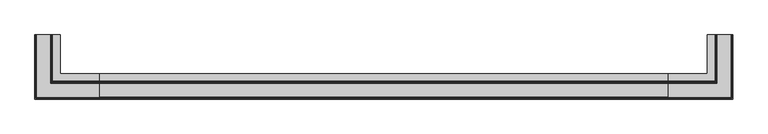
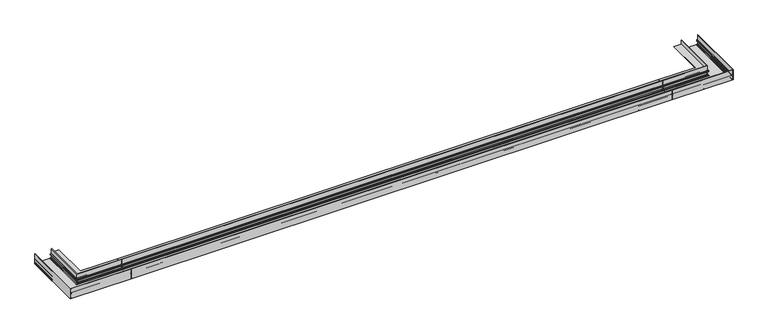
"""IFC4 building model written with IfcOpenShell, lengths in millimetres: proxy geometry, Koryto RENODRAIN : RENODRAIN."""

from ifc_helpers import new_model, si_unit, point, frame, frame_2d, origin, place, context, project, spatial, polyline, circle_curve, ellipse_curve, trimmed, segment, composite_curve, outline, extrude, source, transform, mapped, element, save
from ifc_brep_helpers import plane_surface, cylinder_surface, revolved_surface, advanced_brep


def generic_models_2630b972(model_context):
    return source(origin(), model_context, "Body", "SolidModel", [
        advanced_brep(
        [(4766.0, -128.334936, -14.25), (4766.0, -126.3499995, -15.3960036), (4766.0, -128.1999995, -18.0), (4766.0, -132.9999996, -18.0), (4766.0, -132.9999996, -38.2757359), (4766.0, -129.3333924, -42.0666072), (4766.0, -129.834952, -44.5900806), (4766.0, -128.085185, -46.3529524), (4766.0, -125.8563845, -45.7557471), (4766.0, -121.8949018, -49.5), (4766.0, -14.31734, -49.5), (4766.0, -10.4333924, -45.8333928), (4766.0, -7.909919, -46.3349524), (4766.0, -6.1470472, -44.5851854), (4766.0, -6.7442525, -42.356385), (4766.0, -3.0878675, -38.487868), (4766.0, -3.0878675, -18.0), (4766.0, -7.7999996, -18.0), (4766.0, -9.7999996, -15.6558113), (4766.0, -7.6743923, -14.2337004), (4766.0, -7.6650631, -11.75), (4766.0, -9.6499996, -10.6039964), (4766.0, -7.7999996, -8.0), (4766.0, -2.9999996, -8.0), (4766.0, -2.9999996, 32.0), (4766.0, 5e-07, 32.0), (4766.0, 5e-07, 0.0), (4766.0, 60.0000005, 0.0), (4766.0, 60.0000005, -3.0), (4766.0, 5e-07, -3.0), (4766.0, 5e-07, -52.5), (4766.0, -135.9999996, -52.5), (4766.0, -135.9999996, 32.0000001), (4766.0, -132.9999996, 32.0000001), (4766.0, -132.9999996, -8.0), (4766.0, -128.1999995, -8.0), (4766.0, -126.1999995, -10.3441888), (4766.0, -128.3256069, -11.7662997), (5254.334936, 360.0, -14.25), (5254.3256069, 360.0, -11.7662997), (5252.1999995, 360.0, -10.3441888), (5254.1999995, 360.0, -8.0), (5258.9999996, 360.0, -8.0), (5258.9999996, 360.0, 32.0000001), (5261.9999996, 360.0, 32.0000001), (5261.9999996, 360.0, -52.5), (5125.9999995, 360.0, -52.5), (5125.9999995, 360.0, -3.0), (5065.9999995, 360.0, -3.0), (5065.9999995, 360.0, 0.0), (5125.9999995, 360.0, 0.0), (5125.9999995, 360.0, 32.0), (5128.9999996, 360.0, 32.0), (5128.9999996, 360.0, -8.0), (5133.7999996, 360.0, -8.0), (5135.6499996, 360.0, -10.6039964), (5133.6650631, 360.0, -11.75), (5133.6743923, 360.0, -14.2337004), (5135.7999996, 360.0, -15.6558113), (5133.7999996, 360.0, -18.0), (5129.0878675, 360.0, -18.0), (5129.0878675, 360.0, -38.487868), (5132.7442525, 360.0, -42.356385), (5132.1470472, 360.0, -44.5851854), (5133.909919, 360.0, -46.3349524), (5136.4333924, 360.0, -45.8333928), (5140.31734, 360.0, -49.5), (5247.8949018, 360.0, -49.5), (5251.8563845, 360.0, -45.7557471), (5254.085185, 360.0, -46.3529524), (5255.834952, 360.0, -44.5900806), (5255.3333924, 360.0, -42.0666072), (5258.9999996, 360.0, -38.2757359), (5258.9999996, 360.0, -18.0), (5254.1999995, 360.0, -18.0), (5252.3499995, 360.0, -15.3960036), (5254.3256069, -128.3256069, -11.7662997), (5254.334936, -128.334936, -14.25), (5252.1999995, -126.1999995, -10.3441888), (5254.1999995, -128.1999995, -8.0), (5258.9999996, -132.9999996, -8.0), (5258.9999996, -132.9999996, 32.0000001), (5261.9999996, -135.9999996, 32.0000001), (5261.9999996, -135.9999996, -52.5), (5125.9999995, 5e-07, -52.5), (5125.9999995, 5e-07, -3.0), (5065.9999995, 60.0000005, -3.0), (5065.9999995, 60.0000005, 0.0), (5125.9999995, 5e-07, 0.0), (5125.9999995, 5e-07, 32.0), (5128.9999996, -2.9999996, 32.0), (5128.9999996, -2.9999996, -8.0), (5133.7999996, -7.7999996, -8.0), (5135.6499996, -9.6499996, -10.6039964), (5133.6650631, -7.6650631, -11.75), (5133.6743923, -7.6743923, -14.2337004), (5135.7999996, -9.7999996, -15.6558113), (5133.7999996, -7.7999996, -18.0), (5129.0878675, -3.0878675, -18.0), (5129.0878675, -3.0878675, -38.487868), (5132.7442525, -6.7442525, -42.356385), (5132.1470472, -6.1470472, -44.5851854), (5133.909919, -7.909919, -46.3349524), (5136.4333924, -10.4333924, -45.8333928), (5140.31734, -14.31734, -49.5), (5247.8949018, -121.8949018, -49.5), (5251.8563845, -125.8563845, -45.7557471), (5254.085185, -128.085185, -46.3529524), (5255.834952, -129.834952, -44.5900806), (5255.3333924, -129.3333924, -42.0666072), (5258.9999996, -132.9999996, -38.2757359), (5258.9999996, -132.9999996, -18.0), (5254.1999995, -128.1999995, -18.0), (5252.3499995, -126.3499995, -15.3960036)],
        [
            (0, 1),
            (1, 2, circle_curve(frame((4766.0, -128.1676368, -16.0638309), z_axis=(-1.0, 0.0, 0.0), x_axis=(0.0, 1.0, 0.0)), 1.9364396)),
            (2, 3),
            (3, 4),
            (4, 5),
            (5, 6),
            (6, 7, circle_curve(frame((4766.0, -130.4999996, -47.0), z_axis=(1.0, 0.0, 0.0), x_axis=(0.0, 0.15383713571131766, 0.9880962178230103)), 2.5)),
            (7, 8),
            (8, 9),
            (9, 10),
            (10, 11),
            (11, 12),
            (12, 13, circle_curve(frame((4766.0, -5.4999995, -47.0), z_axis=(1.0, 0.0, 0.0), x_axis=(0.0, -0.9880962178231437, 0.15383713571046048)), 2.5)),
            (13, 14),
            (14, 15),
            (15, 16),
            (16, 17),
            (17, 18, circle_curve(frame((4766.0, -7.7887962, -15.9651736), z_axis=(-1.0, 0.0, 0.0), x_axis=(0.0, 1.0, 0.0)), 2.0348573)),
            (18, 19),
            (19, 20, circle_curve(frame((4766.0, -5.4999996, -13.0), z_axis=(1.0, 0.0, 0.0), x_axis=(0.0, -0.8074688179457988, -0.5899102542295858)), 2.5)),
            (20, 21),
            (21, 22, circle_curve(frame((4766.0, -7.8206077, -9.9445202), z_axis=(-1.0, 0.0, 0.0), x_axis=(0.0, 1.0, 0.0)), 1.9446294)),
            (22, 23),
            (23, 24),
            (24, 25),
            (25, 26),
            (26, 27),
            (27, 28),
            (28, 29),
            (29, 30),
            (30, 31),
            (31, 32),
            (32, 33),
            (33, 34),
            (34, 35),
            (35, 36, circle_curve(frame((4766.0, -128.2266044, -10.0479666), z_axis=(-1.0, 0.0, 0.0), x_axis=(0.0, 1.0, 0.0)), 2.0481394)),
            (36, 37),
            (37, 0, circle_curve(frame((4766.0, -130.4999995, -13.0), z_axis=(1.0, 0.0, 0.0), x_axis=(0.0, 0.8074688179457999, 0.5899102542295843)), 2.5)),
            (38, 39, circle_curve(frame((5256.4999995, 360.0, -13.0), z_axis=(0.0, -1.0, 0.0), x_axis=(-0.8074688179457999, 0.0, 0.5899102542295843)), 2.5)),
            (39, 40),
            (40, 41, circle_curve(frame((5254.2266044, 360.0, -10.0479666), z_axis=(0.0, 1.0, 0.0), x_axis=(-1.0, 0.0, 0.0)), 2.0481394)),
            (41, 42),
            (42, 43),
            (43, 44),
            (44, 45),
            (45, 46),
            (46, 47),
            (47, 48),
            (48, 49),
            (49, 50),
            (50, 51),
            (51, 52),
            (52, 53),
            (53, 54),
            (54, 55, circle_curve(frame((5133.8206077, 360.0, -9.9445202), z_axis=(0.0, 1.0, 0.0), x_axis=(-1.0, 0.0, 0.0)), 1.9446294)),
            (55, 56),
            (56, 57, circle_curve(frame((5131.4999996, 360.0, -13.0), z_axis=(0.0, -1.0, 0.0), x_axis=(0.8074688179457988, 0.0, -0.5899102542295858)), 2.5)),
            (57, 58),
            (58, 59, circle_curve(frame((5133.7887962, 360.0, -15.9651736), z_axis=(0.0, 1.0, 0.0), x_axis=(-1.0, 0.0, 0.0)), 2.0348573)),
            (59, 60),
            (60, 61),
            (61, 62),
            (62, 63),
            (63, 64, circle_curve(frame((5131.4999995, 360.0, -47.0), z_axis=(0.0, -1.0, 0.0), x_axis=(0.9880962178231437, 0.0, 0.15383713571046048)), 2.5)),
            (64, 65),
            (65, 66),
            (66, 67),
            (67, 68),
            (68, 69),
            (69, 70, circle_curve(frame((5256.4999996, 360.0, -47.0), z_axis=(0.0, -1.0, 0.0), x_axis=(-0.15383713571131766, 0.0, 0.9880962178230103)), 2.5)),
            (70, 71),
            (71, 72),
            (72, 73),
            (73, 74),
            (74, 75, circle_curve(frame((5254.1676368, 360.0, -16.0638309), z_axis=(0.0, 1.0, 0.0), x_axis=(-1.0, 0.0, 0.0)), 1.9364396)),
            (75, 38),
            (37, 76),
            (76, 77, ellipse_curve(frame((5256.4999995, -130.4999995, -13.0), z_axis=(0.7071067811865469, 0.7071067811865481, 0.0), x_axis=(0.7071067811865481, -0.7071067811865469, 0.0)), 3.5355339, 2.5)),
            (77, 0),
            (36, 78),
            (78, 76),
            (35, 79),
            (79, 78, ellipse_curve(frame((5254.2266044, -128.2266044, -10.0479666), z_axis=(-0.7071067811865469, -0.7071067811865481, 0.0), x_axis=(-0.7071067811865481, 0.7071067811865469, 0.0)), 2.8965065, 2.0481394)),
            (34, 80),
            (80, 42),
            (41, 79),
            (33, 81),
            (81, 80),
            (32, 82),
            (82, 44),
            (43, 81),
            (31, 83),
            (83, 82),
            (30, 84),
            (84, 46),
            (45, 83),
            (29, 85),
            (85, 84),
            (28, 86),
            (86, 48),
            (47, 85),
            (27, 87),
            (87, 86),
            (26, 88),
            (88, 50),
            (49, 87),
            (25, 89),
            (89, 88),
            (24, 90),
            (90, 52),
            (51, 89),
            (23, 91),
            (91, 90),
            (22, 92),
            (92, 54),
            (53, 91),
            (21, 93),
            (93, 92, ellipse_curve(frame((5133.8206077, -7.8206077, -9.9445202), z_axis=(-0.7071067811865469, -0.7071067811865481, 0.0), x_axis=(-0.7071067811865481, 0.7071067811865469, 0.0)), 2.7501213, 1.9446294)),
            (20, 94),
            (94, 93),
            (19, 95),
            (95, 94, ellipse_curve(frame((5131.4999996, -5.4999996, -13.0), z_axis=(0.7071067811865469, 0.7071067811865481, 0.0), x_axis=(0.7071067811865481, -0.7071067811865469, 0.0)), 3.5355339, 2.5)),
            (18, 96),
            (96, 95),
            (17, 97),
            (97, 96, ellipse_curve(frame((5133.7887962, -7.7887962, -15.9651736), z_axis=(-0.7071067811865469, -0.7071067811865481, 0.0), x_axis=(-0.7071067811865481, 0.7071067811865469, 0.0)), 2.8777228, 2.0348573)),
            (16, 98),
            (98, 60),
            (59, 97),
            (15, 99),
            (99, 98),
            (14, 100),
            (100, 99),
            (13, 101),
            (101, 100),
            (12, 102),
            (102, 101, ellipse_curve(frame((5131.4999995, -5.4999995, -47.0), z_axis=(0.7071067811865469, 0.7071067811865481, 0.0), x_axis=(0.7071067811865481, -0.7071067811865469, 0.0)), 3.5355339, 2.5)),
            (11, 103),
            (103, 102),
            (10, 104),
            (104, 103),
            (9, 105),
            (105, 67),
            (66, 104),
            (8, 106),
            (106, 105),
            (7, 107),
            (107, 106),
            (6, 108),
            (108, 107, ellipse_curve(frame((5256.4999996, -130.4999996, -47.0), z_axis=(0.7071067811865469, 0.7071067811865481, 0.0), x_axis=(0.7071067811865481, -0.7071067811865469, 0.0)), 3.5355339, 2.5)),
            (5, 109),
            (109, 108),
            (4, 110),
            (110, 109),
            (3, 111),
            (111, 110),
            (2, 112),
            (112, 74),
            (73, 111),
            (1, 113),
            (113, 112, ellipse_curve(frame((5254.1676368, -128.1676368, -16.0638309), z_axis=(-0.7071067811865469, -0.7071067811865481, 0.0), x_axis=(-0.7071067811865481, 0.7071067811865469, 0.0)), 2.7385391, 1.9364396)),
            (77, 113),
            (76, 39),
            (38, 77),
            (78, 40),
            (93, 55),
            (94, 56),
            (95, 57),
            (96, 58),
            (99, 61),
            (100, 62),
            (101, 63),
            (102, 64),
            (103, 65),
            (106, 68),
            (107, 69),
            (108, 70),
            (109, 71),
            (110, 72),
            (113, 75),
        ],
        [
            plane_surface(frame((4766.0, 0.0, 0.0), z_axis=(-1.0, 0.0, 0.0), x_axis=(0.0, 0.0, 1.0))),
            plane_surface(frame((5126.0, 360.0, 0.0), z_axis=(0.0, 1.0, 0.0), x_axis=(0.0, 0.0, 1.0))),
            revolved_surface(polyline([(5258.999999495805, -128.4813274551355, -11.52522436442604), (4766.0, -128.4813274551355, -11.52522436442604)]), (4766.0, -130.4999995, -13.0), (1.0000000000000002, 0.0, 0.0)),
            plane_surface(frame((4766.0, -128.3256069, -11.7662997), z_axis=(0.0, 0.5560636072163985, -0.8311397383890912), x_axis=(1.0, 0.0, 0.0))),
            cylinder_surface(frame((4766.0, -128.2266044, -10.0479666), z_axis=(-1.0, 0.0, 0.0), x_axis=(0.0, 1.0, 0.0)), 2.0481394),
            plane_surface(frame((4766.0, -128.1999995, -8.0), z_axis=(0.0, 0.0, 1.0), x_axis=(1.0, 0.0, 0.0))),
            plane_surface(frame((4766.0, -132.9999996, -8.0), z_axis=(0.0, 1.0, 0.0), x_axis=(1.0, 0.0, 0.0))),
            plane_surface(frame((4766.0, -132.9999996, 32.0000001), z_axis=(0.0, 0.0, 1.0), x_axis=(1.0, 0.0, 0.0))),
            plane_surface(frame((4766.0, -135.9999996, 32.0000001), z_axis=(0.0, -1.0, 0.0), x_axis=(1.0, 0.0, 0.0))),
            plane_surface(frame((4766.0, -135.9999996, -52.5), z_axis=(0.0, 0.0, -1.0), x_axis=(1.0, 0.0, 0.0))),
            plane_surface(frame((4766.0, 5e-07, -52.5), z_axis=(0.0, 1.0, 0.0), x_axis=(1.0, 0.0, 0.0))),
            plane_surface(frame((4766.0, 5e-07, -3.0), z_axis=(0.0, 0.0, -1.0), x_axis=(1.0, 0.0, 0.0))),
            plane_surface(frame((4766.0, 60.0000005, -3.0), z_axis=(0.0, 1.0, 0.0), x_axis=(1.0, 0.0, 0.0))),
            plane_surface(frame((4766.0, 60.0000005, 0.0), z_axis=(0.0, 0.0, 1.0), x_axis=(1.0, 0.0, 0.0))),
            plane_surface(frame((4766.0, 5e-07, 0.0), z_axis=(0.0, 1.0, 0.0), x_axis=(1.0, 0.0, 0.0))),
            plane_surface(frame((4766.0, 5e-07, 32.0), z_axis=(0.0, 0.0, 1.0), x_axis=(1.0, 0.0, 0.0))),
            plane_surface(frame((4766.0, -2.9999996, 32.0), z_axis=(0.0, -1.0, 0.0), x_axis=(1.0, 0.0, 0.0))),
            plane_surface(frame((4766.0, -2.9999996, -8.0), z_axis=(0.0, 0.0, 1.0), x_axis=(1.0, 0.0, 0.0))),
            cylinder_surface(frame((4766.0, -7.8206077, -9.9445202), z_axis=(-1.0, 0.0, 0.0), x_axis=(0.0, 1.0, 0.0)), 1.9446294),
            plane_surface(frame((4766.0, -9.6499996, -10.6039964), z_axis=(0.0, -0.49999999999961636, -0.8660254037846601), x_axis=(1.0, 0.0, 0.0))),
            revolved_surface(polyline([(5133.999999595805, -7.518671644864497, -14.474775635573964), (4766.0, -7.518671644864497, -14.474775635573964)]), (4766.0, -5.4999996, -13.0), (1.0000000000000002, 0.0, 0.0)),
            plane_surface(frame((4766.0, -7.6743923, -14.2337004), z_axis=(0.0, -0.5560636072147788, 0.8311397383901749), x_axis=(1.0, 0.0, 0.0))),
            cylinder_surface(frame((4766.0, -7.7887962, -15.9651736), z_axis=(-1.0, 0.0, 0.0), x_axis=(0.0, 1.0, 0.0)), 2.0348573),
            plane_surface(frame((4766.0, -7.7999996, -18.0), z_axis=(0.0, -2.3082798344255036e-12, -1.0), x_axis=(1.0, 0.0, 0.0))),
            plane_surface(frame((4766.0, -3.0878675, -18.0), z_axis=(0.0, -1.0, 0.0), x_axis=(1.0, 0.0, 0.0))),
            plane_surface(frame((4766.0, -3.0878675, -38.487868), z_axis=(0.0, -0.7267518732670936, 0.6869000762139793), x_axis=(1.0, 0.0, 0.0))),
            plane_surface(frame((4766.0, -6.7442525, -42.356385), z_axis=(0.0, -0.9659258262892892, -0.2588190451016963), x_axis=(1.0, 0.0, 0.0))),
            revolved_surface(polyline([(5133.999999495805, -7.97024004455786, -46.61540716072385), (4766.0, -7.97024004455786, -46.61540716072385)]), (4766.0, -5.4999995, -47.0), (1.0000000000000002, 0.0, 0.0)),
            plane_surface(frame((4766.0, -7.909919, -46.3349524), z_axis=(0.0, 0.19494431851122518, 0.9808143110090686), x_axis=(1.0, 0.0, 0.0))),
            plane_surface(frame((4766.0, -10.4333924, -45.8333928), z_axis=(0.0, -0.6864685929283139, 0.7271594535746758), x_axis=(1.0, 0.0, 0.0))),
            plane_surface(frame((4766.0, -14.31734, -49.5), z_axis=(0.0, 0.0, 1.0), x_axis=(1.0, 0.0, 0.0))),
            plane_surface(frame((4766.0, -121.8949018, -49.5), z_axis=(0.0, 0.6869000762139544, 0.7267518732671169), x_axis=(1.0, 0.0, 0.0))),
            plane_surface(frame((4766.0, -125.8563845, -45.7557471), z_axis=(0.0, -0.25881904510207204, 0.9659258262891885), x_axis=(1.0, 0.0, 0.0))),
            revolved_surface(polyline([(5258.999999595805, -130.1154067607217, -44.52975945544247), (4766.0, -130.1154067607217, -44.52975945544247)]), (4766.0, -130.4999996, -47.0), (1.0000000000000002, 0.0, 0.0)),
            plane_surface(frame((4766.0, -129.834952, -44.5900806), z_axis=(0.0, 0.9808143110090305, -0.1949443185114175), x_axis=(1.0, 0.0, 0.0))),
            plane_surface(frame((4766.0, -129.3333924, -42.0666072), z_axis=(0.0, 0.7187895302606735, 0.6952277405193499), x_axis=(1.0, 0.0, 0.0))),
            plane_surface(frame((4766.0, -132.9999996, -38.2757359), z_axis=(0.0, 1.0, 0.0), x_axis=(1.0, 0.0, 0.0))),
            plane_surface(frame((4766.0, -132.9999996, -18.0), z_axis=(0.0, 0.0, -1.0), x_axis=(1.0, 0.0, 0.0))),
            cylinder_surface(frame((4766.0, -128.1676368, -16.0638309), z_axis=(-1.0, 0.0, 0.0), x_axis=(0.0, 1.0, 0.0)), 1.9364396),
            plane_surface(frame((4766.0, -126.3499995, -15.3960036), z_axis=(0.0, 0.5000000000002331, 0.8660254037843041), x_axis=(1.0, 0.0, 0.0))),
            revolved_surface(polyline([(5254.481327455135, 360.0000000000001, -11.52522436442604), (5254.481327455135, -132.99999949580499, -11.52522436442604)]), (5256.4999995, 0.0, -13.0), (0.0, 1.0000000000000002, 0.0)),
            plane_surface(frame((5254.3256069, -128.3256069, -11.7662997), z_axis=(-0.5560636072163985, 0.0, -0.8311397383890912), x_axis=(0.0, 1.0, 0.0))),
            cylinder_surface(frame((5254.2266044, 0.0, -10.0479666), z_axis=(0.0, -1.0, 0.0), x_axis=(-1.0, 0.0, 0.0)), 2.0481394),
            plane_surface(frame((5258.9999996, -132.9999996, -8.0), z_axis=(-1.0, 0.0, 0.0), x_axis=(0.0, 1.0, 0.0))),
            plane_surface(frame((5261.9999996, -135.9999996, 32.0000001), z_axis=(1.0, 0.0, 0.0), x_axis=(0.0, 1.0, 0.0))),
            plane_surface(frame((5125.9999995, 5e-07, -52.5), z_axis=(-1.0, 0.0, 0.0), x_axis=(0.0, 1.0, 0.0))),
            plane_surface(frame((5065.9999995, 60.0000005, -3.0), z_axis=(-1.0, 0.0, 0.0), x_axis=(0.0, 1.0, 0.0))),
            plane_surface(frame((5125.9999995, 5e-07, 0.0), z_axis=(-1.0, 0.0, 0.0), x_axis=(0.0, 1.0, 0.0))),
            plane_surface(frame((5128.9999996, -2.9999996, 32.0), z_axis=(1.0, 0.0, 0.0), x_axis=(0.0, 1.0, 0.0))),
            cylinder_surface(frame((5133.8206077, 0.0, -9.9445202), z_axis=(0.0, -1.0, 0.0), x_axis=(-1.0, 0.0, 0.0)), 1.9446294),
            plane_surface(frame((5135.6499996, -9.6499996, -10.6039964), z_axis=(0.49999999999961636, 0.0, -0.8660254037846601), x_axis=(0.0, 1.0, 0.0))),
            revolved_surface(polyline([(5133.518671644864, 360.0000000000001, -14.474775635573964), (5133.518671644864, -7.999999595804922, -14.474775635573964)]), (5131.4999996, 0.0, -13.0), (0.0, 1.0000000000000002, 0.0)),
            plane_surface(frame((5133.6743923, -7.6743923, -14.2337004), z_axis=(0.5560636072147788, 0.0, 0.8311397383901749), x_axis=(0.0, 1.0, 0.0))),
            cylinder_surface(frame((5133.7887962, 0.0, -15.9651736), z_axis=(0.0, -1.0, 0.0), x_axis=(-1.0, 0.0, 0.0)), 2.0348573),
            plane_surface(frame((5129.0878675, -3.0878675, -18.0), z_axis=(1.0, 0.0, 0.0), x_axis=(0.0, 1.0, 0.0))),
            plane_surface(frame((5129.0878675, -3.0878675, -38.487868), z_axis=(0.7267518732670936, 0.0, 0.6869000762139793), x_axis=(0.0, 1.0, 0.0))),
            plane_surface(frame((5132.7442525, -6.7442525, -42.356385), z_axis=(0.9659258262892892, 0.0, -0.2588190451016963), x_axis=(0.0, 1.0, 0.0))),
            revolved_surface(polyline([(5133.970240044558, 360.0000000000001, -46.61540716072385), (5133.970240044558, -7.999999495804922, -46.61540716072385)]), (5131.4999995, 0.0, -47.0), (0.0, 1.0000000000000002, 0.0)),
            plane_surface(frame((5133.909919, -7.909919, -46.3349524), z_axis=(-0.19494431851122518, 0.0, 0.9808143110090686), x_axis=(0.0, 1.0, 0.0))),
            plane_surface(frame((5136.4333924, -10.4333924, -45.8333928), z_axis=(0.6864685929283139, 0.0, 0.7271594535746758), x_axis=(0.0, 1.0, 0.0))),
            plane_surface(frame((5247.8949018, -121.8949018, -49.5), z_axis=(-0.6869000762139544, 0.0, 0.7267518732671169), x_axis=(0.0, 1.0, 0.0))),
            plane_surface(frame((5251.8563845, -125.8563845, -45.7557471), z_axis=(0.25881904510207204, 0.0, 0.9659258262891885), x_axis=(0.0, 1.0, 0.0))),
            revolved_surface(polyline([(5256.115406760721, 360.0000000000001, -44.52975945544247), (5256.115406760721, -132.99999959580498, -44.52975945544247)]), (5256.4999996, 0.0, -47.0), (0.0, 1.0000000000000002, 0.0)),
            plane_surface(frame((5255.834952, -129.834952, -44.5900806), z_axis=(-0.9808143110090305, 0.0, -0.1949443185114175), x_axis=(0.0, 1.0, 0.0))),
            plane_surface(frame((5255.3333924, -129.3333924, -42.0666072), z_axis=(-0.7187895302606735, 0.0, 0.6952277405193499), x_axis=(0.0, 1.0, 0.0))),
            plane_surface(frame((5258.9999996, -132.9999996, -38.2757359), z_axis=(-1.0, 0.0, 0.0), x_axis=(0.0, 1.0, 0.0))),
            cylinder_surface(frame((5254.1676368, 0.0, -16.0638309), z_axis=(0.0, -1.0, 0.0), x_axis=(-1.0, 0.0, 0.0)), 1.9364396),
            plane_surface(frame((5252.3499995, -126.3499995, -15.3960036), z_axis=(-0.5000000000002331, 0.0, 0.8660254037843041), x_axis=(0.0, 1.0, 0.0))),
        ],
        [
            (0, [[1, 2, 3, 4, 5, 6, 7, 8, 9, 10, 11, 12, 13, 14, 15, 16, 17, 18, 19, 20, 21, 22, 23, 24, 25, 26, 27, 28, 29, 30, 31, 32, 33, 34, 35, 36, 37, 38]]),
            (1, [[39, 40, 41, 42, 43, 44, 45, 46, 47, 48, 49, 50, 51, 52, 53, 54, 55, 56, 57, 58, 59, 60, 61, 62, 63, 64, 65, 66, 67, 68, 69, 70, 71, 72, 73, 74, 75, 76]]),
            (2, [[77, 78, 79, -38]]),
            (3, [[80, 81, -77, -37]]),
            (4, [[82, 83, -80, -36]]),
            (5, [[84, 85, -42, 86, -82, -35]]),
            (6, [[87, 88, -84, -34]]),
            (7, [[89, 90, -44, 91, -87, -33]]),
            (8, [[92, 93, -89, -32]]),
            (9, [[94, 95, -46, 96, -92, -31]]),
            (10, [[97, 98, -94, -30]]),
            (11, [[99, 100, -48, 101, -97, -29]]),
            (12, [[102, 103, -99, -28]]),
            (13, [[104, 105, -50, 106, -102, -27]]),
            (14, [[107, 108, -104, -26]]),
            (15, [[109, 110, -52, 111, -107, -25]]),
            (16, [[112, 113, -109, -24]]),
            (17, [[114, 115, -54, 116, -112, -23]]),
            (18, [[117, 118, -114, -22]]),
            (19, [[119, 120, -117, -21]]),
            (20, [[121, 122, -119, -20]]),
            (21, [[123, 124, -121, -19]]),
            (22, [[125, 126, -123, -18]]),
            (23, [[127, 128, -60, 129, -125, -17]]),
            (24, [[130, 131, -127, -16]]),
            (25, [[132, 133, -130, -15]]),
            (26, [[134, 135, -132, -14]]),
            (27, [[136, 137, -134, -13]]),
            (28, [[138, 139, -136, -12]]),
            (29, [[140, 141, -138, -11]]),
            (30, [[142, 143, -67, 144, -140, -10]]),
            (31, [[145, 146, -142, -9]]),
            (32, [[147, 148, -145, -8]]),
            (33, [[149, 150, -147, -7]]),
            (34, [[151, 152, -149, -6]]),
            (35, [[153, 154, -151, -5]]),
            (36, [[155, 156, -153, -4]]),
            (37, [[157, 158, -74, 159, -155, -3]]),
            (38, [[160, 161, -157, -2]]),
            (39, [[-79, 162, -160, -1]]),
            (40, [[163, -39, 164, -78]]),
            (41, [[165, -40, -163, -81]]),
            (42, [[-86, -41, -165, -83]]),
            (43, [[-91, -43, -85, -88]]),
            (44, [[-96, -45, -90, -93]]),
            (45, [[-101, -47, -95, -98]]),
            (46, [[-106, -49, -100, -103]]),
            (47, [[-111, -51, -105, -108]]),
            (48, [[-116, -53, -110, -113]]),
            (49, [[166, -55, -115, -118]]),
            (50, [[167, -56, -166, -120]]),
            (51, [[168, -57, -167, -122]]),
            (52, [[169, -58, -168, -124]]),
            (53, [[-129, -59, -169, -126]]),
            (54, [[170, -61, -128, -131]]),
            (55, [[171, -62, -170, -133]]),
            (56, [[172, -63, -171, -135]]),
            (57, [[173, -64, -172, -137]]),
            (58, [[174, -65, -173, -139]]),
            (59, [[-144, -66, -174, -141]]),
            (60, [[175, -68, -143, -146]]),
            (61, [[176, -69, -175, -148]]),
            (62, [[177, -70, -176, -150]]),
            (63, [[178, -71, -177, -152]]),
            (64, [[179, -72, -178, -154]]),
            (65, [[-159, -73, -179, -156]]),
            (66, [[180, -75, -158, -161]]),
            (67, [[-164, -76, -180, -162]]),
        ],
    ),
        advanced_brep(
        [(360.0, -128.334936, -14.25), (360.0, -128.3256069, -11.7662997), (360.0, -126.1999995, -10.3441888), (360.0, -128.1999995, -8.0), (360.0, -132.9999996, -8.0), (360.0, -132.9999996, 32.0000001), (360.0, -135.9999996, 32.0000001), (360.0, -135.9999996, -52.5), (360.0, 5e-07, -52.5), (360.0, 5e-07, -3.0), (360.0, 60.0000005, -3.0), (360.0, 60.0000005, 0.0), (360.0, 5e-07, 0.0), (360.0, 5e-07, 32.0), (360.0, -2.9999996, 32.0), (360.0, -2.9999996, -8.0), (360.0, -7.7999996, -8.0), (360.0, -9.6499996, -10.6039964), (360.0, -7.6650631, -11.75), (360.0, -7.6743923, -14.2337004), (360.0, -9.7999996, -15.6558113), (360.0, -7.7999996, -18.0), (360.0, -3.0878675, -18.0), (360.0, -3.0878675, -38.487868), (360.0, -6.7442525, -42.356385), (360.0, -6.1470472, -44.5851854), (360.0, -7.909919, -46.3349524), (360.0, -10.4333924, -45.8333928), (360.0, -14.31734, -49.5), (360.0, -121.8949018, -49.5), (360.0, -125.8563845, -45.7557471), (360.0, -128.085185, -46.3529524), (360.0, -129.834952, -44.5900806), (360.0, -129.3333924, -42.0666072), (360.0, -132.9999996, -38.2757359), (360.0, -132.9999996, -18.0), (360.0, -128.1999995, -18.0), (360.0, -126.3499995, -15.3960036), (-128.334936, 360.0, -14.25), (-126.3499995, 360.0, -15.3960036), (-128.1999995, 360.0, -18.0), (-132.9999996, 360.0, -18.0), (-132.9999996, 360.0, -38.2757359), (-129.3333924, 360.0, -42.0666072), (-129.834952, 360.0, -44.5900806), (-128.085185, 360.0, -46.3529524), (-125.8563845, 360.0, -45.7557471), (-121.8949018, 360.0, -49.5), (-14.31734, 360.0, -49.5), (-10.4333924, 360.0, -45.8333928), (-7.909919, 360.0, -46.3349524), (-6.1470472, 360.0, -44.5851854), (-6.7442525, 360.0, -42.356385), (-3.0878675, 360.0, -38.487868), (-3.0878675, 360.0, -18.0), (-7.7999996, 360.0, -18.0), (-9.7999996, 360.0, -15.6558113), (-7.6743923, 360.0, -14.2337004), (-7.6650631, 360.0, -11.75), (-9.6499996, 360.0, -10.6039964), (-7.7999996, 360.0, -8.0), (-2.9999996, 360.0, -8.0), (-2.9999996, 360.0, 32.0), (5e-07, 360.0, 32.0), (5e-07, 360.0, 0.0), (60.0000005, 360.0, 0.0), (60.0000005, 360.0, -3.0), (5e-07, 360.0, -3.0), (5e-07, 360.0, -52.5), (-135.9999996, 360.0, -52.5), (-135.9999996, 360.0, 32.0000001), (-132.9999996, 360.0, 32.0000001), (-132.9999996, 360.0, -8.0), (-128.1999995, 360.0, -8.0), (-126.1999995, 360.0, -10.3441888), (-128.3256069, 360.0, -11.7662997), (-128.334936, -128.334936, -14.25), (-128.3256069, -128.3256069, -11.7662997), (-126.1999995, -126.1999995, -10.3441888), (-128.1999995, -128.1999995, -8.0), (-132.9999996, -132.9999996, -8.0), (-132.9999996, -132.9999996, 32.0000001), (-135.9999996, -135.9999996, 32.0000001), (-135.9999996, -135.9999996, -52.5), (5e-07, 5e-07, -52.5), (5e-07, 5e-07, -3.0), (60.0000005, 60.0000005, -3.0), (60.0000005, 60.0000005, 0.0), (5e-07, 5e-07, 0.0), (5e-07, 5e-07, 32.0), (-2.9999996, -2.9999996, 32.0), (-2.9999996, -2.9999996, -8.0), (-7.7999996, -7.7999996, -8.0), (-9.6499996, -9.6499996, -10.6039964), (-7.6650631, -7.6650631, -11.75), (-7.6743923, -7.6743923, -14.2337004), (-9.7999996, -9.7999996, -15.6558113), (-7.7999996, -7.7999996, -18.0), (-3.0878675, -3.0878675, -18.0), (-3.0878675, -3.0878675, -38.487868), (-6.7442525, -6.7442525, -42.356385), (-6.1470472, -6.1470472, -44.5851854), (-7.909919, -7.909919, -46.3349524), (-10.4333924, -10.4333924, -45.8333928), (-14.31734, -14.31734, -49.5), (-121.8949018, -121.8949018, -49.5), (-125.8563845, -125.8563845, -45.7557471), (-128.085185, -128.085185, -46.3529524), (-129.834952, -129.834952, -44.5900806), (-129.3333924, -129.3333924, -42.0666072), (-132.9999996, -132.9999996, -38.2757359), (-132.9999996, -132.9999996, -18.0), (-128.1999995, -128.1999995, -18.0), (-126.3499995, -126.3499995, -15.3960036)],
        [
            (0, 1, circle_curve(frame((360.0, -130.4999995, -13.0), z_axis=(-1.0, 0.0, 0.0), x_axis=(0.0, 0.8074688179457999, 0.5899102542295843)), 2.5)),
            (1, 2),
            (2, 3, circle_curve(frame((360.0, -128.2266044, -10.0479666), z_axis=(1.0, 0.0, 0.0), x_axis=(0.0, 1.0, 0.0)), 2.0481394)),
            (3, 4),
            (4, 5),
            (5, 6),
            (6, 7),
            (7, 8),
            (8, 9),
            (9, 10),
            (10, 11),
            (11, 12),
            (12, 13),
            (13, 14),
            (14, 15),
            (15, 16),
            (16, 17, circle_curve(frame((360.0, -7.8206077, -9.9445202), z_axis=(1.0, 0.0, 0.0), x_axis=(0.0, 1.0, 0.0)), 1.9446294)),
            (17, 18),
            (18, 19, circle_curve(frame((360.0, -5.4999996, -13.0), z_axis=(-1.0, 0.0, 0.0), x_axis=(0.0, -0.8074688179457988, -0.5899102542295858)), 2.5)),
            (19, 20),
            (20, 21, circle_curve(frame((360.0, -7.7887962, -15.9651736), z_axis=(1.0, 0.0, 0.0), x_axis=(0.0, 1.0, 0.0)), 2.0348573)),
            (21, 22),
            (22, 23),
            (23, 24),
            (24, 25),
            (25, 26, circle_curve(frame((360.0, -5.4999995, -47.0), z_axis=(-1.0, 0.0, 0.0), x_axis=(0.0, -0.9880962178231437, 0.15383713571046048)), 2.5)),
            (26, 27),
            (27, 28),
            (28, 29),
            (29, 30),
            (30, 31),
            (31, 32, circle_curve(frame((360.0, -130.4999996, -47.0), z_axis=(-1.0, 0.0, 0.0), x_axis=(0.0, 0.15383713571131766, 0.9880962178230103)), 2.5)),
            (32, 33),
            (33, 34),
            (34, 35),
            (35, 36),
            (36, 37, circle_curve(frame((360.0, -128.1676368, -16.0638309), z_axis=(1.0, 0.0, 0.0), x_axis=(0.0, 1.0, 0.0)), 1.9364396)),
            (37, 0),
            (38, 39),
            (39, 40, circle_curve(frame((-128.1676368, 360.0, -16.0638309), z_axis=(0.0, 1.0, 0.0), x_axis=(1.0, 0.0, 0.0)), 1.9364396)),
            (40, 41),
            (41, 42),
            (42, 43),
            (43, 44),
            (44, 45, circle_curve(frame((-130.4999996, 360.0, -47.0), z_axis=(0.0, -1.0, 0.0), x_axis=(0.15383713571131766, 0.0, 0.9880962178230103)), 2.5)),
            (45, 46),
            (46, 47),
            (47, 48),
            (48, 49),
            (49, 50),
            (50, 51, circle_curve(frame((-5.4999995, 360.0, -47.0), z_axis=(0.0, -1.0, 0.0), x_axis=(-0.9880962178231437, 0.0, 0.15383713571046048)), 2.5)),
            (51, 52),
            (52, 53),
            (53, 54),
            (54, 55),
            (55, 56, circle_curve(frame((-7.7887962, 360.0, -15.9651736), z_axis=(0.0, 1.0, 0.0), x_axis=(1.0, 0.0, 0.0)), 2.0348573)),
            (56, 57),
            (57, 58, circle_curve(frame((-5.4999996, 360.0, -13.0), z_axis=(0.0, -1.0, 0.0), x_axis=(-0.8074688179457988, 0.0, -0.5899102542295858)), 2.5)),
            (58, 59),
            (59, 60, circle_curve(frame((-7.8206077, 360.0, -9.9445202), z_axis=(0.0, 1.0, 0.0), x_axis=(1.0, 0.0, 0.0)), 1.9446294)),
            (60, 61),
            (61, 62),
            (62, 63),
            (63, 64),
            (64, 65),
            (65, 66),
            (66, 67),
            (67, 68),
            (68, 69),
            (69, 70),
            (70, 71),
            (71, 72),
            (72, 73),
            (73, 74, circle_curve(frame((-128.2266044, 360.0, -10.0479666), z_axis=(0.0, 1.0, 0.0), x_axis=(1.0, 0.0, 0.0)), 2.0481394)),
            (74, 75),
            (75, 38, circle_curve(frame((-130.4999995, 360.0, -13.0), z_axis=(0.0, -1.0, 0.0), x_axis=(0.8074688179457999, 0.0, 0.5899102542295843)), 2.5)),
            (0, 76),
            (76, 77, ellipse_curve(frame((-130.4999995, -130.4999995, -13.0), z_axis=(-0.7071067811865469, 0.7071067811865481, 0.0), x_axis=(-0.7071067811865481, -0.7071067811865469, 0.0)), 3.5355339, 2.5)),
            (77, 1),
            (77, 78),
            (78, 2),
            (78, 79, ellipse_curve(frame((-128.2266044, -128.2266044, -10.0479666), z_axis=(0.7071067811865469, -0.7071067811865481, 0.0), x_axis=(0.7071067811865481, 0.7071067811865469, 0.0)), 2.8965065, 2.0481394)),
            (79, 3),
            (79, 73),
            (72, 80),
            (80, 4),
            (80, 81),
            (81, 5),
            (81, 71),
            (70, 82),
            (82, 6),
            (82, 83),
            (83, 7),
            (83, 69),
            (68, 84),
            (84, 8),
            (84, 85),
            (85, 9),
            (85, 67),
            (66, 86),
            (86, 10),
            (86, 87),
            (87, 11),
            (87, 65),
            (64, 88),
            (88, 12),
            (88, 89),
            (89, 13),
            (89, 63),
            (62, 90),
            (90, 14),
            (90, 91),
            (91, 15),
            (91, 61),
            (60, 92),
            (92, 16),
            (92, 93, ellipse_curve(frame((-7.8206077, -7.8206077, -9.9445202), z_axis=(0.7071067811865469, -0.7071067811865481, 0.0), x_axis=(0.7071067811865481, 0.7071067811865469, 0.0)), 2.7501213, 1.9446294)),
            (93, 17),
            (93, 94),
            (94, 18),
            (94, 95, ellipse_curve(frame((-5.4999996, -5.4999996, -13.0), z_axis=(-0.7071067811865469, 0.7071067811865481, 0.0), x_axis=(-0.7071067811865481, -0.7071067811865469, 0.0)), 3.5355339, 2.5)),
            (95, 19),
            (95, 96),
            (96, 20),
            (96, 97, ellipse_curve(frame((-7.7887962, -7.7887962, -15.9651736), z_axis=(0.7071067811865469, -0.7071067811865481, 0.0), x_axis=(0.7071067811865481, 0.7071067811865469, 0.0)), 2.8777228, 2.0348573)),
            (97, 21),
            (97, 55),
            (54, 98),
            (98, 22),
            (98, 99),
            (99, 23),
            (99, 100),
            (100, 24),
            (100, 101),
            (101, 25),
            (101, 102, ellipse_curve(frame((-5.4999995, -5.4999995, -47.0), z_axis=(-0.7071067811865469, 0.7071067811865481, 0.0), x_axis=(-0.7071067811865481, -0.7071067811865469, 0.0)), 3.5355339, 2.5)),
            (102, 26),
            (102, 103),
            (103, 27),
            (103, 104),
            (104, 28),
            (104, 48),
            (47, 105),
            (105, 29),
            (105, 106),
            (106, 30),
            (106, 107),
            (107, 31),
            (107, 108, ellipse_curve(frame((-130.4999996, -130.4999996, -47.0), z_axis=(-0.7071067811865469, 0.7071067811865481, 0.0), x_axis=(-0.7071067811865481, -0.7071067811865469, 0.0)), 3.5355339, 2.5)),
            (108, 32),
            (108, 109),
            (109, 33),
            (109, 110),
            (110, 34),
            (110, 111),
            (111, 35),
            (111, 41),
            (40, 112),
            (112, 36),
            (112, 113, ellipse_curve(frame((-128.1676368, -128.1676368, -16.0638309), z_axis=(0.7071067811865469, -0.7071067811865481, 0.0), x_axis=(0.7071067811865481, 0.7071067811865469, 0.0)), 2.7385391, 1.9364396)),
            (113, 37),
            (113, 76),
            (76, 38),
            (75, 77),
            (74, 78),
            (59, 93),
            (58, 94),
            (57, 95),
            (56, 96),
            (53, 99),
            (52, 100),
            (51, 101),
            (50, 102),
            (49, 103),
            (46, 106),
            (45, 107),
            (44, 108),
            (43, 109),
            (42, 110),
            (39, 113),
        ],
        [
            plane_surface(frame((360.0, 0.0, 0.0), z_axis=(1.0, 0.0, 0.0), x_axis=(0.0, 0.0, 1.0))),
            plane_surface(frame((0.0, 360.0, 0.0), z_axis=(0.0, 1.0, 0.0), x_axis=(0.0, 0.0, 1.0))),
            revolved_surface(polyline([(-132.99999949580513, -128.4813274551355, -11.52522436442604), (360.0, -128.4813274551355, -11.52522436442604)]), (360.0, -130.4999995, -13.0), (-1.0000000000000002, 0.0, 0.0)),
            plane_surface(frame((360.0, -128.3256069, -11.7662997), z_axis=(0.0, 0.5560636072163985, -0.8311397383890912), x_axis=(-1.0, 0.0, 0.0))),
            cylinder_surface(frame((360.0, -128.2266044, -10.0479666), z_axis=(1.0, 0.0, 0.0), x_axis=(0.0, 1.0, 0.0)), 2.0481394),
            plane_surface(frame((360.0, -128.1999995, -8.0), z_axis=(0.0, 0.0, 1.0), x_axis=(-1.0, 0.0, 0.0))),
            plane_surface(frame((360.0, -132.9999996, -8.0), z_axis=(0.0, 1.0, 0.0), x_axis=(-1.0, 0.0, 0.0))),
            plane_surface(frame((360.0, -132.9999996, 32.0000001), z_axis=(0.0, 0.0, 1.0), x_axis=(-1.0, 0.0, 0.0))),
            plane_surface(frame((360.0, -135.9999996, 32.0000001), z_axis=(0.0, -1.0, 0.0), x_axis=(-1.0, 0.0, 0.0))),
            plane_surface(frame((360.0, -135.9999996, -52.5), z_axis=(0.0, 0.0, -1.0), x_axis=(-1.0, 0.0, 0.0))),
            plane_surface(frame((360.0, 5e-07, -52.5), z_axis=(0.0, 1.0, 0.0), x_axis=(-1.0, 0.0, 0.0))),
            plane_surface(frame((360.0, 5e-07, -3.0), z_axis=(0.0, 0.0, -1.0), x_axis=(-1.0, 0.0, 0.0))),
            plane_surface(frame((360.0, 60.0000005, -3.0), z_axis=(0.0, 1.0, 0.0), x_axis=(-1.0, 0.0, 0.0))),
            plane_surface(frame((360.0, 60.0000005, 0.0), z_axis=(0.0, 0.0, 1.0), x_axis=(-1.0, 0.0, 0.0))),
            plane_surface(frame((360.0, 5e-07, 0.0), z_axis=(0.0, 1.0, 0.0), x_axis=(-1.0, 0.0, 0.0))),
            plane_surface(frame((360.0, 5e-07, 32.0), z_axis=(0.0, 0.0, 1.0), x_axis=(-1.0, 0.0, 0.0))),
            plane_surface(frame((360.0, -2.9999996, 32.0), z_axis=(0.0, -1.0, 0.0), x_axis=(-1.0, 0.0, 0.0))),
            plane_surface(frame((360.0, -2.9999996, -8.0), z_axis=(0.0, 0.0, 1.0), x_axis=(-1.0, 0.0, 0.0))),
            cylinder_surface(frame((360.0, -7.8206077, -9.9445202), z_axis=(1.0, 0.0, 0.0), x_axis=(0.0, 1.0, 0.0)), 1.9446294),
            plane_surface(frame((360.0, -9.6499996, -10.6039964), z_axis=(0.0, -0.49999999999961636, -0.8660254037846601), x_axis=(-1.0, 0.0, 0.0))),
            revolved_surface(polyline([(-7.999999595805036, -7.518671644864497, -14.474775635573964), (360.0, -7.518671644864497, -14.474775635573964)]), (360.0, -5.4999996, -13.0), (-1.0000000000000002, 0.0, 0.0)),
            plane_surface(frame((360.0, -7.6743923, -14.2337004), z_axis=(0.0, -0.5560636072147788, 0.8311397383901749), x_axis=(-1.0, 0.0, 0.0))),
            cylinder_surface(frame((360.0, -7.7887962, -15.9651736), z_axis=(1.0, 0.0, 0.0), x_axis=(0.0, 1.0, 0.0)), 2.0348573),
            plane_surface(frame((360.0, -7.7999996, -18.0), z_axis=(0.0, -2.3082798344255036e-12, -1.0), x_axis=(-1.0, 0.0, 0.0))),
            plane_surface(frame((360.0, -3.0878675, -18.0), z_axis=(0.0, -1.0, 0.0), x_axis=(-1.0, 0.0, 0.0))),
            plane_surface(frame((360.0, -3.0878675, -38.487868), z_axis=(0.0, -0.7267518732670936, 0.6869000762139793), x_axis=(-1.0, 0.0, 0.0))),
            plane_surface(frame((360.0, -6.7442525, -42.356385), z_axis=(0.0, -0.9659258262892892, -0.2588190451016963), x_axis=(-1.0, 0.0, 0.0))),
            revolved_surface(polyline([(-7.999999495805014, -7.97024004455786, -46.61540716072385), (360.0, -7.97024004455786, -46.61540716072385)]), (360.0, -5.4999995, -47.0), (-1.0000000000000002, 0.0, 0.0)),
            plane_surface(frame((360.0, -7.909919, -46.3349524), z_axis=(0.0, 0.19494431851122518, 0.9808143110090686), x_axis=(-1.0, 0.0, 0.0))),
            plane_surface(frame((360.0, -10.4333924, -45.8333928), z_axis=(0.0, -0.6864685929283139, 0.7271594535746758), x_axis=(-1.0, 0.0, 0.0))),
            plane_surface(frame((360.0, -14.31734, -49.5), z_axis=(0.0, 0.0, 1.0), x_axis=(-1.0, 0.0, 0.0))),
            plane_surface(frame((360.0, -121.8949018, -49.5), z_axis=(0.0, 0.6869000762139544, 0.7267518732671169), x_axis=(-1.0, 0.0, 0.0))),
            plane_surface(frame((360.0, -125.8563845, -45.7557471), z_axis=(0.0, -0.25881904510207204, 0.9659258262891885), x_axis=(-1.0, 0.0, 0.0))),
            revolved_surface(polyline([(-132.99999959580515, -130.1154067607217, -44.52975945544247), (360.0, -130.1154067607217, -44.52975945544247)]), (360.0, -130.4999996, -47.0), (-1.0000000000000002, 0.0, 0.0)),
            plane_surface(frame((360.0, -129.834952, -44.5900806), z_axis=(0.0, 0.9808143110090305, -0.1949443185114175), x_axis=(-1.0, 0.0, 0.0))),
            plane_surface(frame((360.0, -129.3333924, -42.0666072), z_axis=(0.0, 0.7187895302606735, 0.6952277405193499), x_axis=(-1.0, 0.0, 0.0))),
            plane_surface(frame((360.0, -132.9999996, -38.2757359), z_axis=(0.0, 1.0, 0.0), x_axis=(-1.0, 0.0, 0.0))),
            plane_surface(frame((360.0, -132.9999996, -18.0), z_axis=(0.0, 0.0, -1.0), x_axis=(-1.0, 0.0, 0.0))),
            cylinder_surface(frame((360.0, -128.1676368, -16.0638309), z_axis=(1.0, 0.0, 0.0), x_axis=(0.0, 1.0, 0.0)), 1.9364396),
            plane_surface(frame((360.0, -126.3499995, -15.3960036), z_axis=(0.0, 0.5000000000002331, 0.8660254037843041), x_axis=(-1.0, 0.0, 0.0))),
            revolved_surface(polyline([(-128.4813274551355, 360.0000000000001, -11.52522436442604), (-128.4813274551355, -132.99999949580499, -11.52522436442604)]), (-130.4999995, 0.0, -13.0), (0.0, 1.0000000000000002, 0.0)),
            plane_surface(frame((-128.3256069, -128.3256069, -11.7662997), z_axis=(0.5560636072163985, 0.0, -0.8311397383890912), x_axis=(0.0, 1.0, 0.0))),
            cylinder_surface(frame((-128.2266044, 0.0, -10.0479666), z_axis=(0.0, -1.0, 0.0), x_axis=(1.0, 0.0, 0.0)), 2.0481394),
            plane_surface(frame((-132.9999996, -132.9999996, -8.0), z_axis=(1.0, 0.0, 0.0), x_axis=(0.0, 1.0, 0.0))),
            plane_surface(frame((-135.9999996, -135.9999996, 32.0000001), z_axis=(-1.0, 0.0, 0.0), x_axis=(0.0, 1.0, 0.0))),
            plane_surface(frame((5e-07, 5e-07, -52.5), z_axis=(1.0, 0.0, 0.0), x_axis=(0.0, 1.0, 0.0))),
            plane_surface(frame((60.0000005, 60.0000005, -3.0), z_axis=(1.0, 0.0, 0.0), x_axis=(0.0, 1.0, 0.0))),
            plane_surface(frame((5e-07, 5e-07, 0.0), z_axis=(1.0, 0.0, 0.0), x_axis=(0.0, 1.0, 0.0))),
            plane_surface(frame((-2.9999996, -2.9999996, 32.0), z_axis=(-1.0, 0.0, 0.0), x_axis=(0.0, 1.0, 0.0))),
            cylinder_surface(frame((-7.8206077, 0.0, -9.9445202), z_axis=(0.0, -1.0, 0.0), x_axis=(1.0, 0.0, 0.0)), 1.9446294),
            plane_surface(frame((-9.6499996, -9.6499996, -10.6039964), z_axis=(-0.49999999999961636, 0.0, -0.8660254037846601), x_axis=(0.0, 1.0, 0.0))),
            revolved_surface(polyline([(-7.518671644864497, 360.0000000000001, -14.474775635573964), (-7.518671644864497, -7.999999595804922, -14.474775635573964)]), (-5.4999996, 0.0, -13.0), (0.0, 1.0000000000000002, 0.0)),
            plane_surface(frame((-7.6743923, -7.6743923, -14.2337004), z_axis=(-0.5560636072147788, 0.0, 0.8311397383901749), x_axis=(0.0, 1.0, 0.0))),
            cylinder_surface(frame((-7.7887962, 0.0, -15.9651736), z_axis=(0.0, -1.0, 0.0), x_axis=(1.0, 0.0, 0.0)), 2.0348573),
            plane_surface(frame((-3.0878675, -3.0878675, -18.0), z_axis=(-1.0, 0.0, 0.0), x_axis=(0.0, 1.0, 0.0))),
            plane_surface(frame((-3.0878675, -3.0878675, -38.487868), z_axis=(-0.7267518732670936, 0.0, 0.6869000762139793), x_axis=(0.0, 1.0, 0.0))),
            plane_surface(frame((-6.7442525, -6.7442525, -42.356385), z_axis=(-0.9659258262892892, 0.0, -0.2588190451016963), x_axis=(0.0, 1.0, 0.0))),
            revolved_surface(polyline([(-7.97024004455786, 360.0000000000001, -46.61540716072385), (-7.97024004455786, -7.999999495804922, -46.61540716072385)]), (-5.4999995, 0.0, -47.0), (0.0, 1.0000000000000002, 0.0)),
            plane_surface(frame((-7.909919, -7.909919, -46.3349524), z_axis=(0.19494431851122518, 0.0, 0.9808143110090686), x_axis=(0.0, 1.0, 0.0))),
            plane_surface(frame((-10.4333924, -10.4333924, -45.8333928), z_axis=(-0.6864685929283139, 0.0, 0.7271594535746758), x_axis=(0.0, 1.0, 0.0))),
            plane_surface(frame((-121.8949018, -121.8949018, -49.5), z_axis=(0.6869000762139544, 0.0, 0.7267518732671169), x_axis=(0.0, 1.0, 0.0))),
            plane_surface(frame((-125.8563845, -125.8563845, -45.7557471), z_axis=(-0.25881904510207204, 0.0, 0.9659258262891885), x_axis=(0.0, 1.0, 0.0))),
            revolved_surface(polyline([(-130.1154067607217, 360.0000000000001, -44.52975945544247), (-130.1154067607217, -132.99999959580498, -44.52975945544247)]), (-130.4999996, 0.0, -47.0), (0.0, 1.0000000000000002, 0.0)),
            plane_surface(frame((-129.834952, -129.834952, -44.5900806), z_axis=(0.9808143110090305, 0.0, -0.1949443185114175), x_axis=(0.0, 1.0, 0.0))),
            plane_surface(frame((-129.3333924, -129.3333924, -42.0666072), z_axis=(0.7187895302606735, 0.0, 0.6952277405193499), x_axis=(0.0, 1.0, 0.0))),
            plane_surface(frame((-132.9999996, -132.9999996, -38.2757359), z_axis=(1.0, 0.0, 0.0), x_axis=(0.0, 1.0, 0.0))),
            cylinder_surface(frame((-128.1676368, 0.0, -16.0638309), z_axis=(0.0, -1.0, 0.0), x_axis=(1.0, 0.0, 0.0)), 1.9364396),
            plane_surface(frame((-126.3499995, -126.3499995, -15.3960036), z_axis=(0.5000000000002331, 0.0, 0.8660254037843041), x_axis=(0.0, 1.0, 0.0))),
        ],
        [
            (0, [[1, 2, 3, 4, 5, 6, 7, 8, 9, 10, 11, 12, 13, 14, 15, 16, 17, 18, 19, 20, 21, 22, 23, 24, 25, 26, 27, 28, 29, 30, 31, 32, 33, 34, 35, 36, 37, 38]]),
            (1, [[39, 40, 41, 42, 43, 44, 45, 46, 47, 48, 49, 50, 51, 52, 53, 54, 55, 56, 57, 58, 59, 60, 61, 62, 63, 64, 65, 66, 67, 68, 69, 70, 71, 72, 73, 74, 75, 76]]),
            (2, [[-1, 77, 78, 79]]),
            (3, [[-2, -79, 80, 81]]),
            (4, [[-3, -81, 82, 83]]),
            (5, [[-4, -83, 84, -73, 85, 86]]),
            (6, [[-5, -86, 87, 88]]),
            (7, [[-6, -88, 89, -71, 90, 91]]),
            (8, [[-7, -91, 92, 93]]),
            (9, [[-8, -93, 94, -69, 95, 96]]),
            (10, [[-9, -96, 97, 98]]),
            (11, [[-10, -98, 99, -67, 100, 101]]),
            (12, [[-11, -101, 102, 103]]),
            (13, [[-12, -103, 104, -65, 105, 106]]),
            (14, [[-13, -106, 107, 108]]),
            (15, [[-14, -108, 109, -63, 110, 111]]),
            (16, [[-15, -111, 112, 113]]),
            (17, [[-16, -113, 114, -61, 115, 116]]),
            (18, [[-17, -116, 117, 118]]),
            (19, [[-18, -118, 119, 120]]),
            (20, [[-19, -120, 121, 122]]),
            (21, [[-20, -122, 123, 124]]),
            (22, [[-21, -124, 125, 126]]),
            (23, [[-22, -126, 127, -55, 128, 129]]),
            (24, [[-23, -129, 130, 131]]),
            (25, [[-24, -131, 132, 133]]),
            (26, [[-25, -133, 134, 135]]),
            (27, [[-26, -135, 136, 137]]),
            (28, [[-27, -137, 138, 139]]),
            (29, [[-28, -139, 140, 141]]),
            (30, [[-29, -141, 142, -48, 143, 144]]),
            (31, [[-30, -144, 145, 146]]),
            (32, [[-31, -146, 147, 148]]),
            (33, [[-32, -148, 149, 150]]),
            (34, [[-33, -150, 151, 152]]),
            (35, [[-34, -152, 153, 154]]),
            (36, [[-35, -154, 155, 156]]),
            (37, [[-36, -156, 157, -41, 158, 159]]),
            (38, [[-37, -159, 160, 161]]),
            (39, [[-38, -161, 162, -77]]),
            (40, [[-78, 163, -76, 164]]),
            (41, [[-80, -164, -75, 165]]),
            (42, [[-82, -165, -74, -84]]),
            (43, [[-87, -85, -72, -89]]),
            (44, [[-92, -90, -70, -94]]),
            (45, [[-97, -95, -68, -99]]),
            (46, [[-102, -100, -66, -104]]),
            (47, [[-107, -105, -64, -109]]),
            (48, [[-112, -110, -62, -114]]),
            (49, [[-117, -115, -60, 166]]),
            (50, [[-119, -166, -59, 167]]),
            (51, [[-121, -167, -58, 168]]),
            (52, [[-123, -168, -57, 169]]),
            (53, [[-125, -169, -56, -127]]),
            (54, [[-130, -128, -54, 170]]),
            (55, [[-132, -170, -53, 171]]),
            (56, [[-134, -171, -52, 172]]),
            (57, [[-136, -172, -51, 173]]),
            (58, [[-138, -173, -50, 174]]),
            (59, [[-140, -174, -49, -142]]),
            (60, [[-145, -143, -47, 175]]),
            (61, [[-147, -175, -46, 176]]),
            (62, [[-149, -176, -45, 177]]),
            (63, [[-151, -177, -44, 178]]),
            (64, [[-153, -178, -43, 179]]),
            (65, [[-155, -179, -42, -157]]),
            (66, [[-160, -158, -40, 180]]),
            (67, [[-162, -180, -39, -163]]),
        ],
    ),
        extrude(outline(composite_curve([segment(polyline([(-128.334936, -14.25), (-126.3499995, -15.3960036)]), True, "CONTINUOUS"), segment(trimmed(circle_curve(frame_2d((-128.1676368, -16.0638309)), 1.9364396), [point((-126.3499995, -15.3960036))], [point((-128.1999995, -18.0))], False, "CARTESIAN"), True, "CONTINUOUS"), segment(polyline([(-128.1999995, -18.0), (-132.9999996, -18.0), (-132.9999996, -38.2757359), (-129.3333924, -42.0666072), (-129.834952, -44.5900806)]), True, "CONTINUOUS"), segment(trimmed(circle_curve(frame_2d((-130.4999996, -47.0)), 2.5), [point((-129.834952, -44.5900806))], [point((-128.085185, -46.3529524))], True, "CARTESIAN"), True, "CONTINUOUS"), segment(polyline([(-128.085185, -46.3529524), (-125.8563845, -45.7557471), (-121.8949018, -49.5), (-14.31734, -49.5), (-10.4333924, -45.8333928), (-7.909919, -46.3349524)]), True, "CONTINUOUS"), segment(trimmed(circle_curve(frame_2d((-5.4999995, -47.0)), 2.5), [point((-7.909919, -46.3349524))], [point((-6.1470472, -44.5851854))], True, "CARTESIAN"), True, "CONTINUOUS"), segment(polyline([(-6.1470472, -44.5851854), (-6.7442525, -42.356385), (-3.0878675, -38.487868), (-3.0878675, -18.0), (-7.7999996, -18.0)]), True, "CONTINUOUS"), segment(trimmed(circle_curve(frame_2d((-7.7887962, -15.9651736)), 2.0348573), [point((-7.7999996, -18.0))], [point((-9.7999996, -15.6558113))], False, "CARTESIAN"), True, "CONTINUOUS"), segment(polyline([(-9.7999996, -15.6558113), (-7.6743923, -14.2337004)]), True, "CONTINUOUS"), segment(trimmed(circle_curve(frame_2d((-5.4999996, -13.0)), 2.5), [point((-7.6743923, -14.2337004))], [point((-7.6650631, -11.75))], True, "CARTESIAN"), True, "CONTINUOUS"), segment(polyline([(-7.6650631, -11.75), (-9.6499996, -10.6039964)]), True, "CONTINUOUS"), segment(trimmed(circle_curve(frame_2d((-7.8206077, -9.9445202)), 1.9446294), [point((-9.6499996, -10.6039964))], [point((-7.7999996, -8.0))], False, "CARTESIAN"), True, "CONTINUOUS"), segment(polyline([(-7.7999996, -8.0), (-2.9999996, -8.0), (-2.9999996, 32.0), (5e-07, 32.0), (5e-07, 0.0), (60.0000005, 0.0), (60.0000005, -3.0), (5e-07, -3.0), (5e-07, -52.5), (-135.9999996, -52.5), (-135.9999996, 32.0000001), (-132.9999996, 32.0000001), (-132.9999996, -8.0), (-128.1999995, -8.0)]), True, "CONTINUOUS"), segment(trimmed(circle_curve(frame_2d((-128.2266044, -10.0479666)), 2.0481394), [point((-128.1999995, -8.0))], [point((-126.1999995, -10.3441888))], False, "CARTESIAN"), True, "CONTINUOUS"), segment(polyline([(-126.1999995, -10.3441888), (-128.3256069, -11.7662997)]), True, "CONTINUOUS"), segment(trimmed(circle_curve(frame_2d((-130.4999995, -13.0)), 2.5), [point((-128.3256069, -11.7662997))], [point((-128.334936, -14.25))], True, "CARTESIAN"), True, "CONTINUOUS")], self_intersect=False)), frame((360.0, 0.0, 0.0), z_axis=(1.0, 0.0, 0.0), x_axis=(0.0, 1.0, 0.0)), (0.0, 0.0, 1.0), 4406.0),
    ])


if __name__ == "__main__":
    model = new_model("IFC4")
    model_context = context("Model", 3, world=origin())
    ifc_project = project(units=[si_unit("LENGTHUNIT", "METRE", prefix="MILLI")], contexts=[model_context])
    site = spatial("IfcSite", under=ifc_project)
    building = spatial("IfcBuilding", under=site)
    placement = place(None, origin())
    generic_models_shape = generic_models_2630b972(model_context)
    element("IfcBuildingElementProxy", 1, Name="Koryto RENODRAIN : RENODRAIN", ObjectType="Koryto RENODRAIN : RENODRAIN", at=placement, inside=building, context=model_context, shape_type="MappedRepresentation", body=[
        mapped(generic_models_shape, transform((0.0, 0.0, 0.0), x_axis=(1.0, 0.0, 0.0), y_axis=(0.0, 1.0, 0.0), z_axis=(0.0, 0.0, 1.0))),
    ])
    save(model, "model.ifc")
